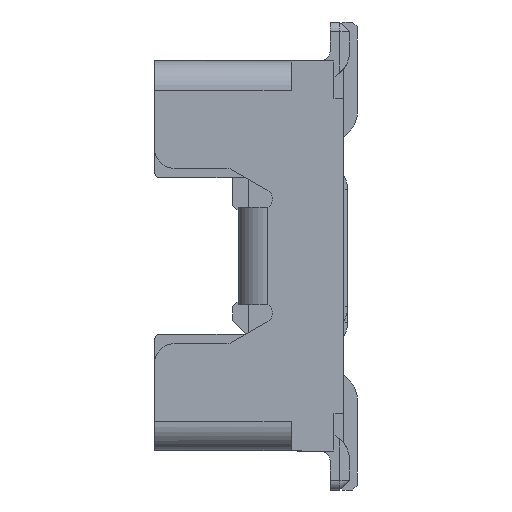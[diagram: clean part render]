
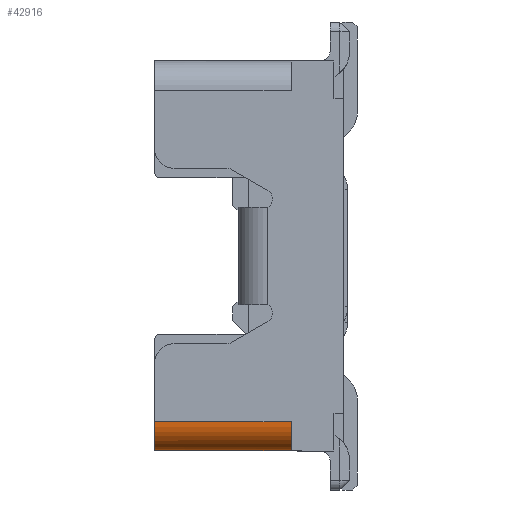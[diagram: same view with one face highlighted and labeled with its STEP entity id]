
A CAD part, left-side view. The second image highlights one B-rep face of the part: STEP entity #42916.
In plain terms, the highlighted cylindrical face has radius 0.15 mm (diameter 0.3 mm), a partial arc.
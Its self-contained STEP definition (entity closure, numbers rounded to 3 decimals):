
#1279 = AXIS2_PLACEMENT_3D ( 'NONE', #9129, #9130, #9131 ) ;
#1280 = AXIS2_PLACEMENT_3D ( 'NONE', #9134, #9135, #9136 ) ;
#3534 = EDGE_LOOP ( 'NONE', ( #43679, #43681, #43683, #43685, #43687 ) ) ;
#5937 = CIRCLE ( 'NONE', #26917, 0.15 ) ;
#9123 = CARTESIAN_POINT ( 'NONE',  ( -1.95, 0.85, -1. ) ) ;
#9124 = DIRECTION ( 'NONE',  ( 0., 1., 0. ) ) ;
#9128 = DIRECTION ( 'NONE',  ( 0., -1., 0. ) ) ;
#9129 = CARTESIAN_POINT ( 'NONE',  ( -1.95, 0.85, -0.85 ) ) ;
#9130 = DIRECTION ( 'NONE',  ( 0., 1., 0. ) ) ;
#9131 = DIRECTION ( 'NONE',  ( 0., 0., 1. ) ) ;
#9132 = CARTESIAN_POINT ( 'NONE',  ( -2.1, 0.85, -0.85 ) ) ;
#9134 = CARTESIAN_POINT ( 'NONE',  ( -1.95, 0.15, -0.85 ) ) ;
#9135 = DIRECTION ( 'NONE',  ( 0., -1., 0. ) ) ;
#9136 = DIRECTION ( 'NONE',  ( 0., 0., 1. ) ) ;
#14262 = CARTESIAN_POINT ( 'NONE',  ( -1.95, 0.15, -0.85 ) ) ;
#14263 = DIRECTION ( 'NONE',  ( 0., -1., 0. ) ) ;
#14264 = DIRECTION ( 'NONE',  ( 0., 0., 1. ) ) ;
#17195 = EDGE_CURVE ( 'NONE', #23867, #35860, #34163, .T. ) ;
#17197 = EDGE_CURVE ( 'NONE', #41081, #23867, #34165, .T. ) ;
#17199 = EDGE_CURVE ( 'NONE', #42568, #41081, #34159, .T. ) ;
#17202 = EDGE_CURVE ( 'NONE', #35860, #42879, #34168, .T. ) ;
#18376 = CARTESIAN_POINT ( 'NONE',  ( -2.1, 0.15, -0.85 ) ) ;
#18568 = CARTESIAN_POINT ( 'NONE',  ( -1.95, 0.85, -0.85 ) ) ;
#18574 = DIRECTION ( 'NONE',  ( 0., -1., 0. ) ) ;
#18578 = DIRECTION ( 'NONE',  ( 0., 0., -1. ) ) ;
#21881 = CARTESIAN_POINT ( 'NONE',  ( -1.95, 0.15, -1. ) ) ;
#22283 = CARTESIAN_POINT ( 'NONE',  ( -1.98, 0.15, -0.997 ) ) ;
#22898 = FACE_OUTER_BOUND ( 'NONE', #3534, .T. ) ;
#22899 = CYLINDRICAL_SURFACE ( 'NONE', #35696, 0.15 ) ;
#23867 = VERTEX_POINT ( 'NONE', #32678 ) ;
#26917 = AXIS2_PLACEMENT_3D ( 'NONE', #14262, #14263, #14264 ) ;
#32678 = CARTESIAN_POINT ( 'NONE',  ( -1.95, 0.85, -1. ) ) ;
#33009 = CARTESIAN_POINT ( 'NONE',  ( -2.1, 0.85, -0.85 ) ) ;
#34159 = CIRCLE ( 'NONE', #1280, 0.15 ) ;
#34163 = CIRCLE ( 'NONE', #1279, 0.15 ) ;
#34165 = LINE ( 'NONE', #9123, #34167 ) ;
#34167 = VECTOR ( 'NONE', #9124, 1000. ) ;
#34168 = LINE ( 'NONE', #9132, #34170 ) ;
#34170 = VECTOR ( 'NONE', #9128, 1000. ) ;
#35696 = AXIS2_PLACEMENT_3D ( 'NONE', #18568, #18574, #18578 ) ;
#35860 = VERTEX_POINT ( 'NONE', #33009 ) ;
#41081 = VERTEX_POINT ( 'NONE', #21881 ) ;
#42568 = VERTEX_POINT ( 'NONE', #22283 ) ;
#42879 = VERTEX_POINT ( 'NONE', #18376 ) ;
#42916 = ADVANCED_FACE ( 'NONE', ( #22898 ), #22899, .T. ) ;
#43679 = ORIENTED_EDGE ( 'NONE', *, *, #17195, .F. ) ;
#43681 = ORIENTED_EDGE ( 'NONE', *, *, #17197, .F. ) ;
#43683 = ORIENTED_EDGE ( 'NONE', *, *, #17199, .F. ) ;
#43685 = ORIENTED_EDGE ( 'NONE', *, *, #44405, .F. ) ;
#43687 = ORIENTED_EDGE ( 'NONE', *, *, #17202, .F. ) ;
#44405 = EDGE_CURVE ( 'NONE', #42879, #42568, #5937, .T. ) ;
